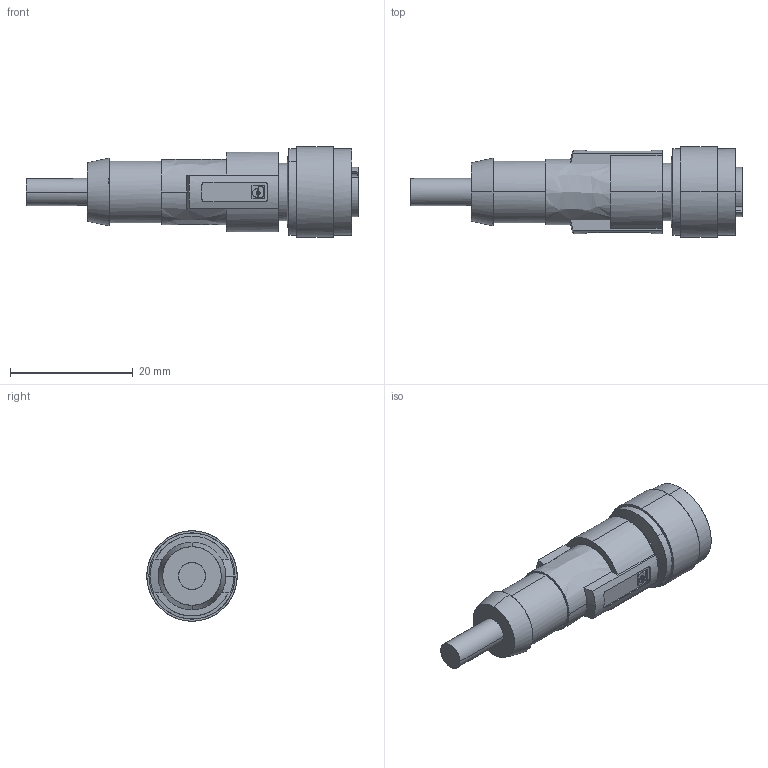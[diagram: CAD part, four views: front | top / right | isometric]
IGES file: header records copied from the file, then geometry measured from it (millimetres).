
Start section: Comment
Global section: file name: ESG 34SH.igs; native system:  By UGS Corp.; preprocessor: XPlus GENERIC/IGES 3.0; author: Author; organization: Title; date: 20101124.083211; units: millimetre
Bounding box: 54 x 14.68 x 14.7 mm (x, y, z)
Surface area: 3074 mm2 (no closed solid volume)
Topology: 0 solids, 0 shells, 146 faces, 1536 edges, 1536 vertices
Faces by surface type: bspline 146
